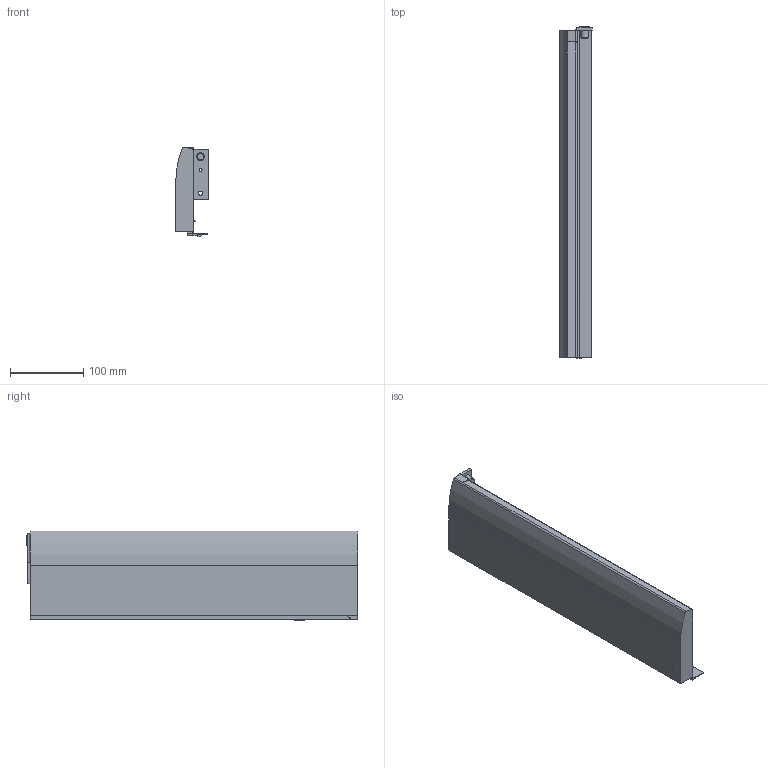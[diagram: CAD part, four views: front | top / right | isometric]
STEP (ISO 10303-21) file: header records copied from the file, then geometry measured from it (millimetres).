
FILE_DESCRIPTION (( 'STEP AP214' ), '1' );
FILE_NAME ('_IMOS_NOVA-Pro_Dekor-H122_DL_NL450_LI.step', '2010-07-14T11:02:20', ( 'grass' ), ( '' ), 'SwSTEP 2.0', 'SolidWorks 2010', '' );
FILE_SCHEMA (( 'AUTOMOTIVE_DESIGN' ));
Length unit declared in the file: millimetre
Products named in the file (1): _IMOS_NOVA-Pro_Dekor-H122_DL_NL450_LI
Bounding box: 44.3 x 452.7 x 122.49 mm (x, y, z)
Volume: 832723.8 mm3; surface area: 185635.9 mm2
Topology: 1 solids, 1 shells, 84 faces, 227 edges, 150 vertices
Faces by surface type: plane 52, cylinder 27, cone 4, bspline 1
Entity records: 2685 total; most frequent: CARTESIAN_POINT 475, ORIENTED_EDGE 454, DIRECTION 454, EDGE_CURVE 227, VECTOR 164, LINE 164, VERTEX_POINT 150, AXIS2_PLACEMENT_3D 145
